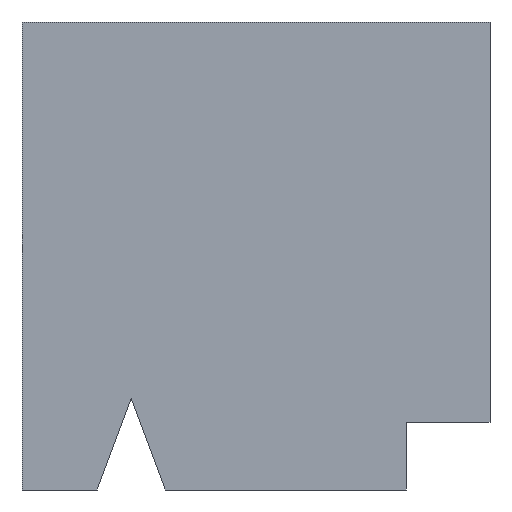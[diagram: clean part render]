
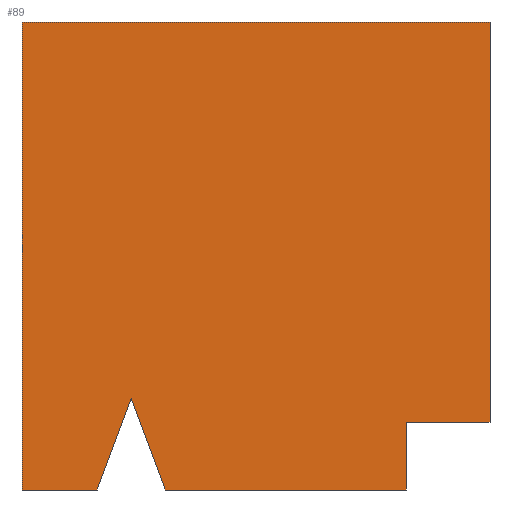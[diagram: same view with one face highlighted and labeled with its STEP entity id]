
A CAD part, front view. The second image highlights one B-rep face of the part: STEP entity #89.
In plain terms, the highlighted planar face has unit normal (0, -1, 0).
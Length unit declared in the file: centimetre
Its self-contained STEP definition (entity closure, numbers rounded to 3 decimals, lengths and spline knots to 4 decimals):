
#2 = DIRECTION ( 'NONE',  ( 0., 0., -1. ) ) ;
#30 = LINE ( 'NONE', #437, #686 ) ;
#43 = DIRECTION ( 'NONE',  ( 1., 0., 0. ) ) ;
#47 = CARTESIAN_POINT ( 'NONE',  ( 306.3306, 0., 0. ) ) ;
#89 = ADVANCED_FACE ( 'NONE', ( #757 ), #1058, .F. ) ;
#120 = CARTESIAN_POINT ( 'NONE',  ( 821.4783, 0., 145.1321 ) ) ;
#143 = CARTESIAN_POINT ( 'NONE',  ( 0., 0., 1000. ) ) ;
#203 = CARTESIAN_POINT ( 'NONE',  ( 0., 0., 1000. ) ) ;
#230 = EDGE_CURVE ( 'NONE', #290, #802, #30, .T. ) ;
#236 = EDGE_CURVE ( 'NONE', #802, #401, #340, .T. ) ;
#290 = VERTEX_POINT ( 'NONE', #465 ) ;
#329 = ORIENTED_EDGE ( 'NONE', *, *, #1276, .F. ) ;
#340 = LINE ( 'NONE', #1147, #1261 ) ;
#359 = LINE ( 'NONE', #1272, #1191 ) ;
#365 = CARTESIAN_POINT ( 'NONE',  ( 821.4783, 0., 0. ) ) ;
#373 = VECTOR ( 'NONE', #864, 100. ) ;
#378 = DIRECTION ( 'NONE',  ( -0.35, 0., -0.937 ) ) ;
#401 = VERTEX_POINT ( 'NONE', #120 ) ;
#405 = VERTEX_POINT ( 'NONE', #506 ) ;
#412 = LINE ( 'NONE', #1110, #435 ) ;
#435 = VECTOR ( 'NONE', #2, 100. ) ;
#437 = CARTESIAN_POINT ( 'NONE',  ( 1000., 0., 1000. ) ) ;
#439 = ORIENTED_EDGE ( 'NONE', *, *, #811, .F. ) ;
#465 = CARTESIAN_POINT ( 'NONE',  ( 1000., 0., 1000. ) ) ;
#472 = DIRECTION ( 'NONE',  ( -1., 0., 0. ) ) ;
#480 = EDGE_CURVE ( 'NONE', #1299, #290, #562, .T. ) ;
#489 = VERTEX_POINT ( 'NONE', #365 ) ;
#501 = EDGE_CURVE ( 'NONE', #1299, #405, #1163, .T. ) ;
#506 = CARTESIAN_POINT ( 'NONE',  ( 0., 0., 0. ) ) ;
#509 = CARTESIAN_POINT ( 'NONE',  ( 1000., 0., 145.1321 ) ) ;
#526 = CARTESIAN_POINT ( 'NONE',  ( 233.4071, 0., 195.1041 ) ) ;
#559 = EDGE_CURVE ( 'NONE', #405, #1144, #359, .T. ) ;
#562 = LINE ( 'NONE', #966, #373 ) ;
#587 = EDGE_CURVE ( 'NONE', #594, #489, #656, .T. ) ;
#594 = VERTEX_POINT ( 'NONE', #47 ) ;
#597 = VECTOR ( 'NONE', #1061, 100. ) ;
#656 = LINE ( 'NONE', #764, #597 ) ;
#666 = CARTESIAN_POINT ( 'NONE',  ( 160.4836, 0., 0. ) ) ;
#673 = CARTESIAN_POINT ( 'NONE',  ( 0., 0., 1000. ) ) ;
#686 = VECTOR ( 'NONE', #840, 100. ) ;
#694 = EDGE_LOOP ( 'NONE', ( #776, #439, #731, #928, #1126, #804, #1137, #874, #329 ) ) ;
#731 = ORIENTED_EDGE ( 'NONE', *, *, #236, .F. ) ;
#757 = FACE_OUTER_BOUND ( 'NONE', #694, .T. ) ;
#764 = CARTESIAN_POINT ( 'NONE',  ( 0., 0., 0. ) ) ;
#770 = VECTOR ( 'NONE', #870, 100. ) ;
#776 = ORIENTED_EDGE ( 'NONE', *, *, #587, .T. ) ;
#802 = VERTEX_POINT ( 'NONE', #509 ) ;
#804 = ORIENTED_EDGE ( 'NONE', *, *, #501, .T. ) ;
#811 = EDGE_CURVE ( 'NONE', #401, #489, #412, .T. ) ;
#840 = DIRECTION ( 'NONE',  ( 0., 0., -1. ) ) ;
#859 = VECTOR ( 'NONE', #378, 100. ) ;
#864 = DIRECTION ( 'NONE',  ( 1., 0., 0. ) ) ;
#867 = DIRECTION ( 'NONE',  ( -0.35, 0., 0.937 ) ) ;
#870 = DIRECTION ( 'NONE',  ( 0., 0., -1. ) ) ;
#873 = AXIS2_PLACEMENT_3D ( 'NONE', #143, #1161, #1065 ) ;
#874 = ORIENTED_EDGE ( 'NONE', *, *, #1021, .F. ) ;
#879 = VERTEX_POINT ( 'NONE', #526 ) ;
#928 = ORIENTED_EDGE ( 'NONE', *, *, #230, .F. ) ;
#966 = CARTESIAN_POINT ( 'NONE',  ( 0., 0., 1000. ) ) ;
#1011 = CARTESIAN_POINT ( 'NONE',  ( 233.4071, 0., 195.1041 ) ) ;
#1021 = EDGE_CURVE ( 'NONE', #879, #1144, #1162, .T. ) ;
#1038 = VECTOR ( 'NONE', #867, 100. ) ;
#1058 = PLANE ( 'NONE',  #873 ) ;
#1061 = DIRECTION ( 'NONE',  ( 1., 0., 0. ) ) ;
#1065 = DIRECTION ( 'NONE',  ( 0., 0., 1. ) ) ;
#1098 = CARTESIAN_POINT ( 'NONE',  ( 160.4836, 0., 0. ) ) ;
#1110 = CARTESIAN_POINT ( 'NONE',  ( 821.4783, 0., 0. ) ) ;
#1126 = ORIENTED_EDGE ( 'NONE', *, *, #480, .F. ) ;
#1137 = ORIENTED_EDGE ( 'NONE', *, *, #559, .T. ) ;
#1144 = VERTEX_POINT ( 'NONE', #1098 ) ;
#1147 = CARTESIAN_POINT ( 'NONE',  ( 821.4783, 0., 145.1321 ) ) ;
#1161 = DIRECTION ( 'NONE',  ( 0., 1., 0. ) ) ;
#1162 = LINE ( 'NONE', #666, #859 ) ;
#1163 = LINE ( 'NONE', #673, #770 ) ;
#1191 = VECTOR ( 'NONE', #43, 100. ) ;
#1202 = LINE ( 'NONE', #1011, #1038 ) ;
#1261 = VECTOR ( 'NONE', #472, 100. ) ;
#1272 = CARTESIAN_POINT ( 'NONE',  ( 0., 0., 0. ) ) ;
#1276 = EDGE_CURVE ( 'NONE', #594, #879, #1202, .T. ) ;
#1299 = VERTEX_POINT ( 'NONE', #203 ) ;
